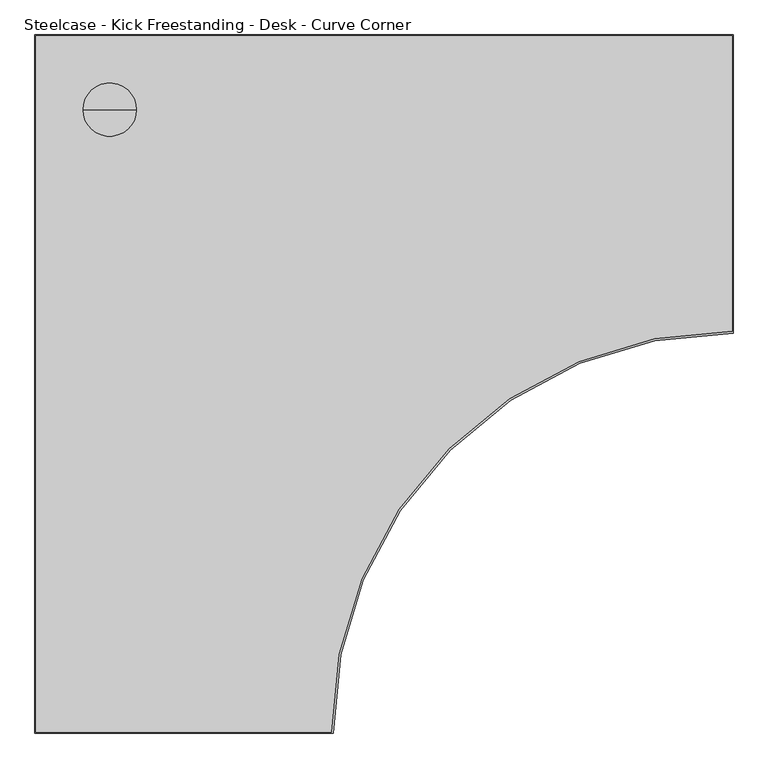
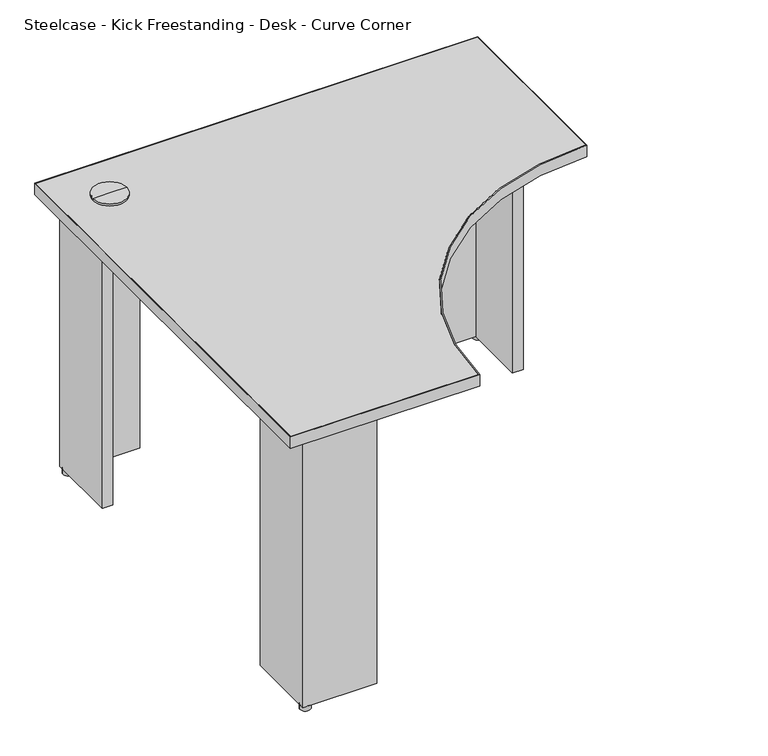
"""IFC4 building model written with IfcOpenShell, lengths in millimetres: furniture geometry, Steelcase - Kick Freestanding - Desk - Curve Corner : 18D x 42W - LPL."""

from ifc_helpers import new_model, si_unit, point, frame, frame_2d, origin, origin_with_axes, place, context, project, spatial, polyline, circle_curve, trimmed, segment, composite_curve, outline, extrude, source, transform, mapped, element, save
from ifc_brep_helpers import plane_surface, cylinder_surface, advanced_brep


def steelcase_kick_freestanding_desk_curve_corner_f61100f1(model_context):
    return source(origin(), model_context, "Body", "SolidModel", [
        extrude(outline(polyline([(874.0393822, -63.5), (874.0393822, -38.1), (1051.8393579, -38.1), (1051.8393579, -215.8999939), (1025.9313463, -215.8999939), (1025.9313463, -63.5), (874.0393822, -63.5)])), frame((0.0, 0.0, 12.446), z_axis=(0.0, 0.0, 1.0), x_axis=(1.0, 0.0, 0.0)), (0.0, 0.0, 1.0), 682.498),
        extrude(outline(polyline([(215.8999939, -63.5), (63.5, -63.5), (63.5, -215.8999939), (38.1, -215.8999939), (38.1, -38.1), (215.8999939, -38.1), (215.8999939, -63.5)])), frame((0.0, 0.0, 12.446), z_axis=(0.0, 0.0, 1.0), x_axis=(1.0, 0.0, 0.0)), (0.0, 0.0, 1.0), 682.498),
        advanced_brep(
        [(114.3, -114.3, 728.98), (154.94, -114.3, 728.98), (73.66, -114.3, 728.98), (76.1699693, -114.3, 694.944), (152.4300307, -114.3, 694.944), (114.3, -114.3, 694.944), (76.1699693, -114.3, 723.9), (152.4300307, -114.3, 723.9), (73.66, -114.3, 723.9), (154.94, -114.3, 723.9)],
        [
            (0, 1),
            (1, 2, circle_curve(frame((114.3, -114.3, 728.98), z_axis=(0.0, 0.0, 1.0), x_axis=(1.0, 0.0, 0.0)), 40.64)),
            (2, 0),
            (2, 1, circle_curve(frame((114.3, -114.3, 728.98), z_axis=(0.0, 0.0, 1.0), x_axis=(1.0, 0.0, 0.0)), 40.64)),
            (3, 4, circle_curve(frame((114.3, -114.3, 694.944), z_axis=(0.0, 0.0, -1.0), x_axis=(1.0, 0.0, 0.0)), 38.1300307)),
            (4, 5),
            (5, 3),
            (4, 3, circle_curve(frame((114.3, -114.3, 694.944), z_axis=(0.0, 0.0, -1.0), x_axis=(1.0, 0.0, 0.0)), 38.1300307)),
            (6, 7, circle_curve(frame((114.3, -114.3, 723.9), z_axis=(0.0, 0.0, -1.0), x_axis=(1.0, 0.0, 0.0)), 38.1300307)),
            (7, 4),
            (3, 6),
            (7, 6, circle_curve(frame((114.3, -114.3, 723.9), z_axis=(0.0, 0.0, -1.0), x_axis=(1.0, 0.0, 0.0)), 38.1300307)),
            (8, 9, circle_curve(frame((114.3, -114.3, 723.9), z_axis=(0.0, 0.0, -1.0), x_axis=(1.0, 0.0, 0.0)), 40.64)),
            (9, 7),
            (6, 8),
            (9, 8, circle_curve(frame((114.3, -114.3, 723.9), z_axis=(0.0, 0.0, -1.0), x_axis=(1.0, 0.0, 0.0)), 40.64)),
            (1, 9),
            (8, 2),
        ],
        [
            plane_surface(frame((114.3, -114.3, 728.98), z_axis=(0.0, 0.0, 1.0), x_axis=(1.0, 0.0, 0.0))),
            plane_surface(frame((114.3, -114.3, 694.944), z_axis=(0.0, 0.0, -1.0), x_axis=(1.0, 0.0, 0.0))),
            cylinder_surface(frame((114.3, -114.3, 728.98), z_axis=(0.0, 0.0, 1.0), x_axis=(1.0, 0.0, 0.0)), 38.1300307),
            plane_surface(frame((114.3, -114.3, 723.9), z_axis=(0.0, 0.0, -1.0), x_axis=(1.0, 0.0, 0.0))),
            cylinder_surface(frame((114.3, -114.3, 728.98), z_axis=(0.0, 0.0, 1.0), x_axis=(1.0, 0.0, 0.0)), 40.64),
        ],
        [
            (0, [[1, 2, 3]]),
            (0, [[-3, 4, -1]]),
            (1, [[5, 6, 7]]),
            (1, [[8, -7, -6]]),
            (2, [[9, 10, -5, 11]]),
            (2, [[12, -11, -8, -10]]),
            (3, [[13, 14, -9, 15]]),
            (3, [[16, -15, -12, -14]]),
            (4, [[-2, 17, -13, 18]]),
            (4, [[-4, -18, -16, -17]]),
        ],
    ),
        extrude(outline(composite_curve([segment(trimmed(circle_curve(frame_2d((50.8, -50.8)), 12.7), [point((38.1, -50.8))], [point((63.5, -50.8))], False, "CARTESIAN"), True, "CONTINUOUS"), segment(trimmed(circle_curve(frame_2d((50.8, -50.8)), 12.7), [point((63.5, -50.8))], [point((38.1, -50.8))], False, "CARTESIAN"), True, "CONTINUOUS")], self_intersect=False)), origin_with_axes(), (0.0, 0.0, 1.0), 12.446),
        extrude(outline(composite_curve([segment(trimmed(circle_curve(frame_2d((50.8, -1040.1300073)), 12.7484998), [point((38.0515002, -1040.1300073))], [point((63.5484998, -1040.1300073))], False, "CARTESIAN"), True, "CONTINUOUS"), segment(trimmed(circle_curve(frame_2d((50.8, -1040.1300073)), 12.7484998), [point((63.5484998, -1040.1300073))], [point((38.0515002, -1040.1300073))], False, "CARTESIAN"), True, "CONTINUOUS")], self_intersect=False)), origin_with_axes(), (0.0, 0.0, 1.0), 12.446),
        extrude(outline(composite_curve([segment(trimmed(circle_curve(frame_2d((1038.8853521, -50.8)), 12.7), [point((1026.1853521, -50.8))], [point((1051.5853521, -50.8))], False, "CARTESIAN"), True, "CONTINUOUS"), segment(trimmed(circle_curve(frame_2d((1038.8853521, -50.8)), 12.7), [point((1051.5853521, -50.8))], [point((1026.1853521, -50.8))], False, "CARTESIAN"), True, "CONTINUOUS")], self_intersect=False)), origin_with_axes(), (0.0, 0.0, 1.0), 12.446),
        extrude(outline(polyline([(215.8999939, -1027.4300194), (215.8999939, -1052.8299952), (38.1, -1052.8299952), (38.1, -875.0300194), (63.5, -875.0300194), (63.5, -1027.4300194), (215.8999939, -1027.4300194)])), frame((0.0, 0.0, 12.446), z_axis=(0.0, 0.0, 1.0), x_axis=(1.0, 0.0, 0.0)), (0.0, 0.0, 1.0), 682.498),
        extrude(outline(composite_curve([segment(polyline([(0.9906, -1065.8093628), (0.9906, -0.9906), (1065.8093628, -0.9906), (1065.8093628, -452.9354109)]), True, "CONTINUOUS"), segment(trimmed(circle_curve(frame_2d((1064.5393458, -1064.5393458)), 611.6052536), [point((1065.8093628, -452.9354109))], [point((452.9354109, -1065.8093628))], True, "CARTESIAN"), True, "CONTINUOUS"), segment(polyline([(452.9354109, -1065.8093628), (0.9906, -1065.8093628)]), True, "CONTINUOUS")], self_intersect=False)), frame((0.0, 0.0, 694.944), z_axis=(0.0, 0.0, 1.0), x_axis=(1.0, 0.0, 0.0)), (0.0, 0.0, 1.0), 28.956),
        extrude(outline(composite_curve([segment(polyline([(1066.8, 0.0), (1066.8, -455.932629)]), True, "CONTINUOUS"), segment(trimmed(circle_curve(frame_2d((1065.529983, -1065.529983)), 609.598677), [point((1066.8, -455.932629))], [point((455.932629, -1066.8))], True, "CARTESIAN"), True, "CONTINUOUS"), segment(polyline([(455.932629, -1066.8), (0.0, -1066.8), (0.0, 0.0), (1066.8, 0.0)]), True, "CONTINUOUS")], self_intersect=False), holes=[composite_curve([segment(polyline([(1065.8093628, -0.9906), (0.9906, -0.9906), (0.9906, -1065.8093628), (452.9354109, -1065.8093628)]), True, "CONTINUOUS"), segment(trimmed(circle_curve(frame_2d((1064.5393458, -1064.5393458)), 611.6052536), [point((452.9354109, -1065.8093628))], [point((1065.8093628, -452.9354109))], False, "CARTESIAN"), True, "CONTINUOUS"), segment(polyline([(1065.8093628, -452.9354109), (1065.8093628, -0.9906)]), True, "CONTINUOUS")], self_intersect=False)]), frame((0.0, 0.0, 694.944), z_axis=(0.0, 0.0, 1.0), x_axis=(1.0, 0.0, 0.0)), (0.0, 0.0, 1.0), 28.956),
    ])


if __name__ == "__main__":
    model = new_model("IFC4")
    model_context = context("Model", 3, world=origin())
    ifc_project = project(units=[si_unit("LENGTHUNIT", "METRE", prefix="MILLI")], contexts=[model_context])
    site = spatial("IfcSite", under=ifc_project)
    building = spatial("IfcBuilding", under=site)
    placement = place(None, origin())
    steelcase_kick_freestanding_desk_curve_corner_shape = steelcase_kick_freestanding_desk_curve_corner_f61100f1(model_context)
    element("IfcFurniture", 1, ObjectType="Steelcase - Kick Freestanding - Desk - Curve Corner : 18D x 42W - LPL", at=placement, inside=building, context=model_context, shape_type="MappedRepresentation", body=[
        mapped(steelcase_kick_freestanding_desk_curve_corner_shape, transform((0.0, 0.0, 0.0), x_axis=(1.0, 0.0, 0.0), y_axis=(0.0, 1.0, 0.0), z_axis=(0.0, 0.0, 1.0))),
    ])
    save(model, "model.ifc")
